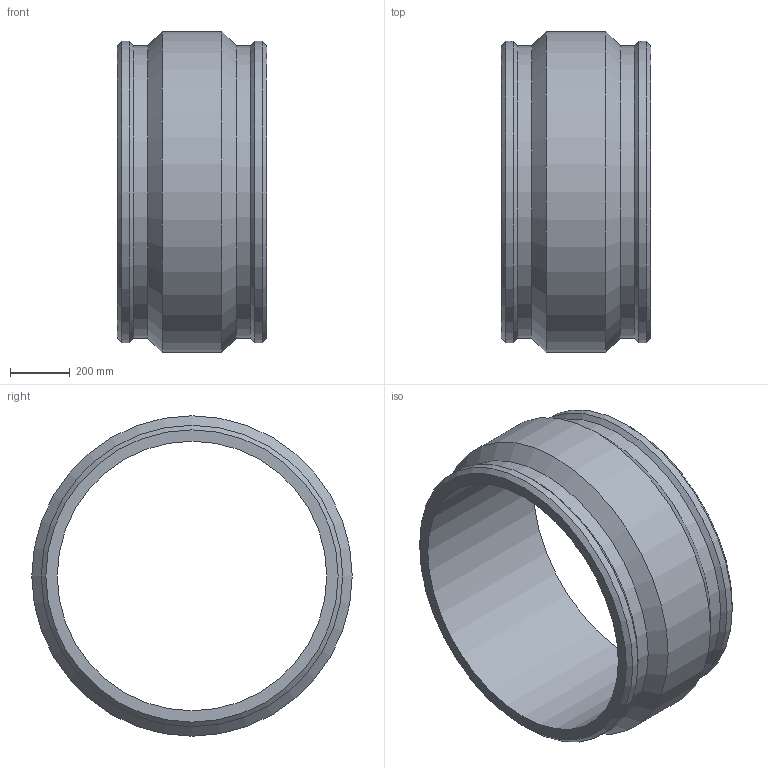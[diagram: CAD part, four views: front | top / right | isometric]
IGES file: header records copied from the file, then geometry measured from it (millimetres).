
Global section: file name: 490103900.ipt; native system: Autodesk Inventor 2015; preprocessor: unknown; author: KIM; date: 20190421.151312; units: millimetre
Bounding box: 500 x 1070 x 1070 mm (x, y, z)
Volume: 96874315.4 mm3; surface area: 3454968.9 mm2
Topology: 1 solids, 1 shells, 28 faces, 52 edges, 30 vertices
Faces by surface type: cylinder 11, plane 8, cone 6, revolution 3
Full cylindrical faces by diameter (mm): 4 x2, 975.82 x2, 1006 x2, 1070 x1
